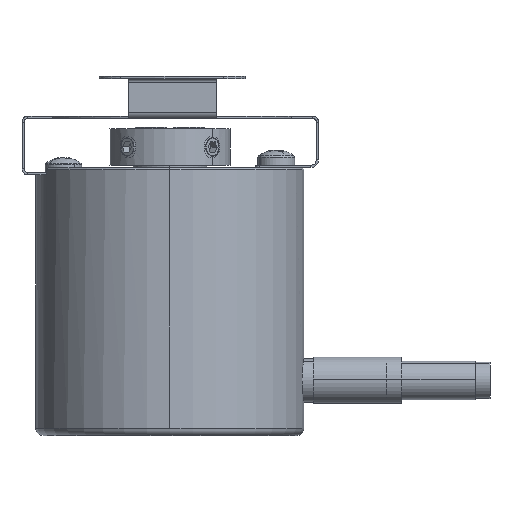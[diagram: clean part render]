
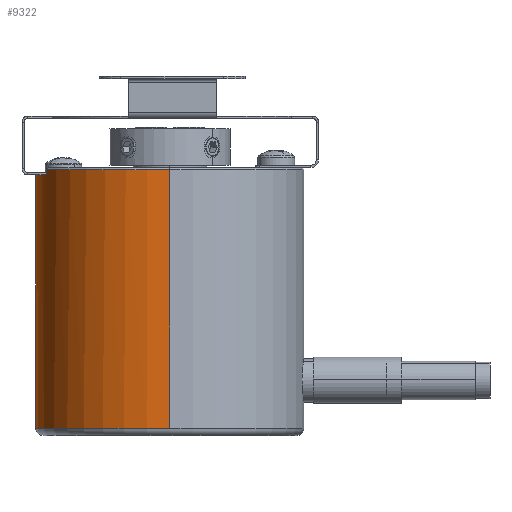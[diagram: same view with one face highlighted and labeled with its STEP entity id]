
A CAD part, left-side view. The second image highlights one B-rep face of the part: STEP entity #9322.
In plain terms, the highlighted cylindrical face has radius 18.25 mm (diameter 36.5 mm), a partial arc.
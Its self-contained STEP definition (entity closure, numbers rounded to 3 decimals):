
#10 = VECTOR ( 'NONE', #8949, 1000. ) ;
#58 = CIRCLE ( 'NONE', #9417, 18.25 ) ;
#157 = CARTESIAN_POINT ( 'NONE',  ( 0., 18.25, -36.5 ) ) ;
#230 = VERTEX_POINT ( 'NONE', #10388 ) ;
#268 = CARTESIAN_POINT ( 'NONE',  ( -7., 16.854, -1.3 ) ) ;
#342 = DIRECTION ( 'NONE',  ( 0., 0., 1. ) ) ;
#348 = VERTEX_POINT ( 'NONE', #6183 ) ;
#393 = AXIS2_PLACEMENT_3D ( 'NONE', #2844, #2722, #1007 ) ;
#575 = DIRECTION ( 'NONE',  ( 0., 1., 0. ) ) ;
#646 = DIRECTION ( 'NONE',  ( 0., 0., 1. ) ) ;
#987 = CARTESIAN_POINT ( 'NONE',  ( 7., 16.854, -2. ) ) ;
#1007 = DIRECTION ( 'NONE',  ( 1., 0., 0. ) ) ;
#1299 = VERTEX_POINT ( 'NONE', #268 ) ;
#1345 = DIRECTION ( 'NONE',  ( 1., 0., 0. ) ) ;
#1393 = EDGE_CURVE ( 'NONE', #11053, #230, #6893, .T. ) ;
#1558 = VERTEX_POINT ( 'NONE', #987 ) ;
#1613 = CARTESIAN_POINT ( 'NONE',  ( 0., 0., -2. ) ) ;
#2028 = EDGE_CURVE ( 'NONE', #3046, #1558, #11025, .T. ) ;
#2198 = VECTOR ( 'NONE', #342, 1000. ) ;
#2397 = CIRCLE ( 'NONE', #8066, 18.25 ) ;
#2433 = DIRECTION ( 'NONE',  ( 0., 1., 0. ) ) ;
#2561 = CARTESIAN_POINT ( 'NONE',  ( -18.25, 0., -36.5 ) ) ;
#2610 = LINE ( 'NONE', #9915, #10 ) ;
#2688 = CARTESIAN_POINT ( 'NONE',  ( 7., 16.854, -1. ) ) ;
#2722 = DIRECTION ( 'NONE',  ( 0., 0., -1. ) ) ;
#2800 = CARTESIAN_POINT ( 'NONE',  ( 5., 17.552, -2. ) ) ;
#2844 = CARTESIAN_POINT ( 'NONE',  ( 0., 0., -2. ) ) ;
#3046 = VERTEX_POINT ( 'NONE', #11160 ) ;
#3312 = ORIENTED_EDGE ( 'NONE', *, *, #9884, .T. ) ;
#3396 = ORIENTED_EDGE ( 'NONE', *, *, #1393, .T. ) ;
#3620 = DIRECTION ( 'NONE',  ( 0., 0., -1. ) ) ;
#3791 = EDGE_CURVE ( 'NONE', #11319, #11966, #2610, .T. ) ;
#3923 = EDGE_CURVE ( 'NONE', #4728, #1558, #4508, .T. ) ;
#3957 = CARTESIAN_POINT ( 'NONE',  ( -18.25, 0., -1.3 ) ) ;
#4007 = DIRECTION ( 'NONE',  ( 0., 0., 1. ) ) ;
#4489 = VERTEX_POINT ( 'NONE', #11699 ) ;
#4508 = CIRCLE ( 'NONE', #393, 18.25 ) ;
#4714 = DIRECTION ( 'NONE',  ( 1., 0., 0. ) ) ;
#4728 = VERTEX_POINT ( 'NONE', #2800 ) ;
#4905 = CIRCLE ( 'NONE', #5690, 18.25 ) ;
#5012 = EDGE_CURVE ( 'NONE', #4489, #10459, #4905, .T. ) ;
#5038 = CARTESIAN_POINT ( 'NONE',  ( 0., 0., -1. ) ) ;
#5238 = CARTESIAN_POINT ( 'NONE',  ( 0., 0., -36.5 ) ) ;
#5343 = DIRECTION ( 'NONE',  ( 1., 0., 0. ) ) ;
#5690 = AXIS2_PLACEMENT_3D ( 'NONE', #5238, #646, #575 ) ;
#5774 = ORIENTED_EDGE ( 'NONE', *, *, #2028, .F. ) ;
#6023 = CARTESIAN_POINT ( 'NONE',  ( 18.25, 0., -1. ) ) ;
#6149 = ORIENTED_EDGE ( 'NONE', *, *, #3791, .T. ) ;
#6183 = CARTESIAN_POINT ( 'NONE',  ( 18.25, 0., -1.3 ) ) ;
#6222 = VECTOR ( 'NONE', #7211, 1000. ) ;
#6291 = ORIENTED_EDGE ( 'NONE', *, *, #3923, .T. ) ;
#6313 = DIRECTION ( 'NONE',  ( 0., 0., -1. ) ) ;
#6535 = CARTESIAN_POINT ( 'NONE',  ( 0., 0., -1.3 ) ) ;
#6720 = DIRECTION ( 'NONE',  ( 1., 0., 0. ) ) ;
#6891 = CARTESIAN_POINT ( 'NONE',  ( 0., 0., -36.5 ) ) ;
#6893 = CIRCLE ( 'NONE', #8460, 18.25 ) ;
#6932 = LINE ( 'NONE', #6023, #2198 ) ;
#7085 = DIRECTION ( 'NONE',  ( 0., 0., -1. ) ) ;
#7211 = DIRECTION ( 'NONE',  ( 0., 0., 1. ) ) ;
#7347 = EDGE_CURVE ( 'NONE', #10459, #11319, #58, .T. ) ;
#7489 = CIRCLE ( 'NONE', #11568, 18.25 ) ;
#7946 = DIRECTION ( 'NONE',  ( 0., 0., -1. ) ) ;
#8066 = AXIS2_PLACEMENT_3D ( 'NONE', #11597, #7946, #6720 ) ;
#8077 = DIRECTION ( 'NONE',  ( 0., 0., -1. ) ) ;
#8138 = LINE ( 'NONE', #8196, #6222 ) ;
#8191 = EDGE_CURVE ( 'NONE', #230, #4728, #7489, .T. ) ;
#8196 = CARTESIAN_POINT ( 'NONE',  ( -7., 16.854, -2. ) ) ;
#8354 = VECTOR ( 'NONE', #7085, 1000. ) ;
#8441 = ORIENTED_EDGE ( 'NONE', *, *, #10996, .F. ) ;
#8460 = AXIS2_PLACEMENT_3D ( 'NONE', #1613, #6313, #5343 ) ;
#8552 = CIRCLE ( 'NONE', #12049, 18.25 ) ;
#8704 = FACE_OUTER_BOUND ( 'NONE', #10896, .T. ) ;
#8757 = CYLINDRICAL_SURFACE ( 'NONE', #10957, 18.25 ) ;
#8898 = DIRECTION ( 'NONE',  ( 0., 0., 1. ) ) ;
#8949 = DIRECTION ( 'NONE',  ( 0., 0., 1. ) ) ;
#8971 = EDGE_CURVE ( 'NONE', #4489, #348, #6932, .T. ) ;
#8994 = ORIENTED_EDGE ( 'NONE', *, *, #5012, .T. ) ;
#9322 = ADVANCED_FACE ( 'NONE', ( #8704 ), #8757, .T. ) ;
#9417 = AXIS2_PLACEMENT_3D ( 'NONE', #6891, #8898, #2433 ) ;
#9613 = DIRECTION ( 'NONE',  ( 1., 0., 0. ) ) ;
#9718 = EDGE_CURVE ( 'NONE', #11966, #1299, #2397, .T. ) ;
#9884 = EDGE_CURVE ( 'NONE', #3046, #348, #8552, .T. ) ;
#9915 = CARTESIAN_POINT ( 'NONE',  ( -18.25, 0., -1. ) ) ;
#10284 = ORIENTED_EDGE ( 'NONE', *, *, #7347, .T. ) ;
#10388 = CARTESIAN_POINT ( 'NONE',  ( -5., 17.552, -2. ) ) ;
#10459 = VERTEX_POINT ( 'NONE', #157 ) ;
#10896 = EDGE_LOOP ( 'NONE', ( #10284, #6149, #11689, #8441, #3396, #11723, #6291, #5774, #3312, #11301, #8994 ) ) ;
#10957 = AXIS2_PLACEMENT_3D ( 'NONE', #5038, #4007, #9613 ) ;
#10996 = EDGE_CURVE ( 'NONE', #11053, #1299, #8138, .T. ) ;
#11025 = LINE ( 'NONE', #2688, #8354 ) ;
#11053 = VERTEX_POINT ( 'NONE', #11095 ) ;
#11095 = CARTESIAN_POINT ( 'NONE',  ( -7., 16.854, -2. ) ) ;
#11160 = CARTESIAN_POINT ( 'NONE',  ( 7., 16.854, -1.3 ) ) ;
#11301 = ORIENTED_EDGE ( 'NONE', *, *, #8971, .F. ) ;
#11319 = VERTEX_POINT ( 'NONE', #2561 ) ;
#11568 = AXIS2_PLACEMENT_3D ( 'NONE', #11651, #8077, #1345 ) ;
#11597 = CARTESIAN_POINT ( 'NONE',  ( 0., 0., -1.3 ) ) ;
#11651 = CARTESIAN_POINT ( 'NONE',  ( 0., 0., -2. ) ) ;
#11689 = ORIENTED_EDGE ( 'NONE', *, *, #9718, .T. ) ;
#11699 = CARTESIAN_POINT ( 'NONE',  ( 18.25, 0., -36.5 ) ) ;
#11723 = ORIENTED_EDGE ( 'NONE', *, *, #8191, .T. ) ;
#11966 = VERTEX_POINT ( 'NONE', #3957 ) ;
#12049 = AXIS2_PLACEMENT_3D ( 'NONE', #6535, #3620, #4714 ) ;
